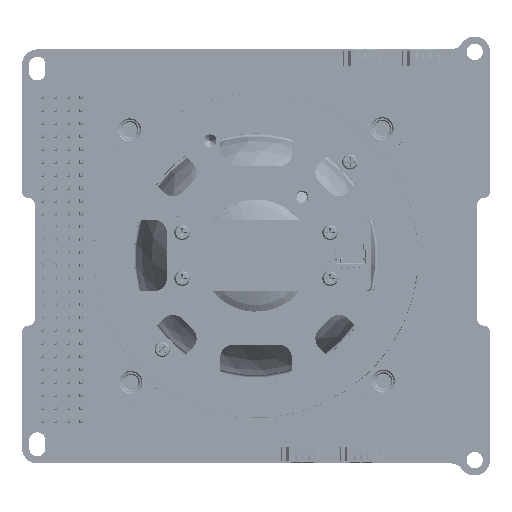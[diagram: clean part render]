
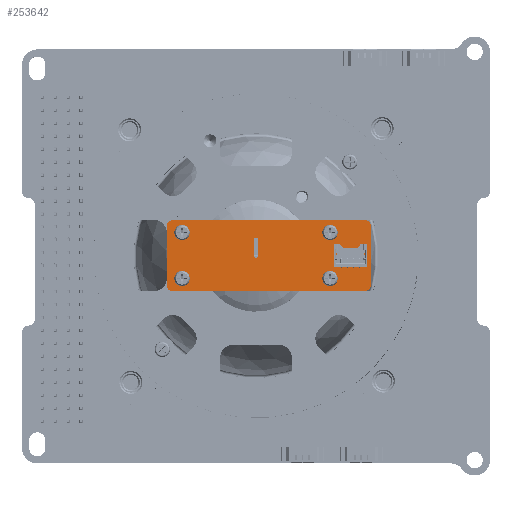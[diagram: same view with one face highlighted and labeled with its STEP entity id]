
A CAD part, top view. The second image highlights one B-rep face of the part: STEP entity #253642.
In plain terms, the highlighted planar face has unit normal (0, 0, 1).
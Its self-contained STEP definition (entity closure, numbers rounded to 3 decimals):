
#11792=FACE_BOUND('',#96534,.T.);
#11793=FACE_BOUND('',#96535,.T.);
#11794=FACE_BOUND('',#96536,.T.);
#11795=FACE_BOUND('',#96537,.T.);
#11796=FACE_BOUND('',#96538,.T.);
#23205=LINE('',#409508,#49038);
#23210=LINE('',#409522,#49043);
#23215=LINE('',#409540,#49048);
#23218=LINE('',#409546,#49051);
#23219=LINE('',#409550,#49052);
#23220=LINE('',#409554,#49053);
#49038=VECTOR('',#303647,10.);
#49043=VECTOR('',#303660,10.);
#49048=VECTOR('',#303679,10.);
#49051=VECTOR('',#303684,10.);
#49052=VECTOR('',#303687,10.);
#49053=VECTOR('',#303690,10.);
#71970=PLANE('',#270243);
#81385=FACE_OUTER_BOUND('',#96533,.T.);
#96533=EDGE_LOOP('',(#191468,#191469,#191470,#191471,#191472,#191473,#191474,
#191475));
#96534=EDGE_LOOP('',(#191476,#191477,#191478,#191479));
#96535=EDGE_LOOP('',(#191480));
#96536=EDGE_LOOP('',(#191481));
#96537=EDGE_LOOP('',(#191482));
#96538=EDGE_LOOP('',(#191483));
#112264=CIRCLE('',#270233,0.475);
#112266=CIRCLE('',#270237,0.475);
#112268=CIRCLE('',#270240,1.);
#112270=CIRCLE('',#270244,1.);
#112271=CIRCLE('',#270245,1.);
#112272=CIRCLE('',#270246,1.);
#112273=CIRCLE('',#270247,1.05);
#112274=CIRCLE('',#270248,1.05);
#112275=CIRCLE('',#270249,1.05);
#112276=CIRCLE('',#270250,1.05);
#122871=VERTEX_POINT('',#409506);
#122872=VERTEX_POINT('',#409507);
#122875=VERTEX_POINT('',#409515);
#122877=VERTEX_POINT('',#409521);
#122879=VERTEX_POINT('',#409530);
#122880=VERTEX_POINT('',#409531);
#122883=VERTEX_POINT('',#409539);
#122885=VERTEX_POINT('',#409545);
#122886=VERTEX_POINT('',#409547);
#122887=VERTEX_POINT('',#409549);
#122888=VERTEX_POINT('',#409551);
#122889=VERTEX_POINT('',#409553);
#122890=VERTEX_POINT('',#409556);
#122891=VERTEX_POINT('',#409558);
#122892=VERTEX_POINT('',#409560);
#122893=VERTEX_POINT('',#409562);
#147461=EDGE_CURVE('',#122871,#122872,#23205,.T.);
#147465=EDGE_CURVE('',#122872,#122875,#112264,.T.);
#147468=EDGE_CURVE('',#122875,#122877,#23210,.T.);
#147471=EDGE_CURVE('',#122877,#122871,#112266,.T.);
#147473=EDGE_CURVE('',#122879,#122880,#112268,.T.);
#147477=EDGE_CURVE('',#122883,#122880,#23215,.T.);
#147480=EDGE_CURVE('',#122885,#122879,#23218,.T.);
#147481=EDGE_CURVE('',#122886,#122885,#112270,.T.);
#147482=EDGE_CURVE('',#122887,#122886,#23219,.T.);
#147483=EDGE_CURVE('',#122888,#122887,#112271,.T.);
#147484=EDGE_CURVE('',#122888,#122889,#23220,.T.);
#147485=EDGE_CURVE('',#122883,#122889,#112272,.T.);
#147486=EDGE_CURVE('',#122890,#122890,#112273,.T.);
#147487=EDGE_CURVE('',#122891,#122891,#112274,.T.);
#147488=EDGE_CURVE('',#122892,#122892,#112275,.T.);
#147489=EDGE_CURVE('',#122893,#122893,#112276,.T.);
#191468=ORIENTED_EDGE('',*,*,#147473,.F.);
#191469=ORIENTED_EDGE('',*,*,#147480,.F.);
#191470=ORIENTED_EDGE('',*,*,#147481,.F.);
#191471=ORIENTED_EDGE('',*,*,#147482,.F.);
#191472=ORIENTED_EDGE('',*,*,#147483,.F.);
#191473=ORIENTED_EDGE('',*,*,#147484,.T.);
#191474=ORIENTED_EDGE('',*,*,#147485,.F.);
#191475=ORIENTED_EDGE('',*,*,#147477,.T.);
#191476=ORIENTED_EDGE('',*,*,#147468,.T.);
#191477=ORIENTED_EDGE('',*,*,#147471,.T.);
#191478=ORIENTED_EDGE('',*,*,#147461,.T.);
#191479=ORIENTED_EDGE('',*,*,#147465,.T.);
#191480=ORIENTED_EDGE('',*,*,#147486,.T.);
#191481=ORIENTED_EDGE('',*,*,#147487,.T.);
#191482=ORIENTED_EDGE('',*,*,#147488,.T.);
#191483=ORIENTED_EDGE('',*,*,#147489,.T.);
#253642=ADVANCED_FACE('',(#81385,#11792,#11793,#11794,#11795,#11796),#71970,
 .T.);
#270233=AXIS2_PLACEMENT_3D('',#409516,#303653,#303654);
#270237=AXIS2_PLACEMENT_3D('',#409527,#303665,#303666);
#270240=AXIS2_PLACEMENT_3D('',#409532,#303671,#303672);
#270243=AXIS2_PLACEMENT_3D('',#409544,#303682,#303683);
#270244=AXIS2_PLACEMENT_3D('',#409548,#303685,#303686);
#270245=AXIS2_PLACEMENT_3D('',#409552,#303688,#303689);
#270246=AXIS2_PLACEMENT_3D('',#409555,#303691,#303692);
#270247=AXIS2_PLACEMENT_3D('',#409557,#303693,#303694);
#270248=AXIS2_PLACEMENT_3D('',#409559,#303695,#303696);
#270249=AXIS2_PLACEMENT_3D('',#409561,#303697,#303698);
#270250=AXIS2_PLACEMENT_3D('',#409563,#303699,#303700);
#303647=DIRECTION('',(0.,1.,0.));
#303653=DIRECTION('center_axis',(0.,0.,
-1.));
#303654=DIRECTION('ref_axis',(-1.,0.,0.));
#303660=DIRECTION('',(0.,-1.,0.));
#303665=DIRECTION('center_axis',(0.,0.,
-1.));
#303666=DIRECTION('ref_axis',(1.,0.,0.));
#303671=DIRECTION('center_axis',(0.,0.,
-1.));
#303672=DIRECTION('ref_axis',(0.707,0.707,0.));
#303679=DIRECTION('',(0.,1.,0.));
#303682=DIRECTION('center_axis',(0.,0.,
1.));
#303683=DIRECTION('ref_axis',(-1.,0.,0.));
#303684=DIRECTION('',(1.,0.,0.));
#303685=DIRECTION('center_axis',(0.,0.,
-1.));
#303686=DIRECTION('ref_axis',(-0.707,0.707,0.));
#303687=DIRECTION('',(0.,1.,0.));
#303688=DIRECTION('center_axis',(0.,0.,
-1.));
#303689=DIRECTION('ref_axis',(-0.707,-0.707,0.));
#303690=DIRECTION('',(1.,0.,0.));
#303691=DIRECTION('center_axis',(0.,0.,
-1.));
#303692=DIRECTION('ref_axis',(0.707,-0.707,0.));
#303693=DIRECTION('center_axis',(0.,0.,
-1.));
#303694=DIRECTION('ref_axis',(0.,1.,0.));
#303695=DIRECTION('center_axis',(0.,0.,
-1.));
#303696=DIRECTION('ref_axis',(0.,1.,0.));
#303697=DIRECTION('center_axis',(0.,0.,
-1.));
#303698=DIRECTION('ref_axis',(0.,1.,0.));
#303699=DIRECTION('center_axis',(0.,0.,
-1.));
#303700=DIRECTION('ref_axis',(0.,1.,0.));
#409506=CARTESIAN_POINT('',(-0.475,0.,24.));
#409507=CARTESIAN_POINT('',(-0.475,3.,24.));
#409508=CARTESIAN_POINT('',(-0.475,1.5,24.));
#409515=CARTESIAN_POINT('',(0.475,3.,24.));
#409516=CARTESIAN_POINT('Origin',(0.,3.,
24.));
#409521=CARTESIAN_POINT('',(0.475,0.,24.));
#409522=CARTESIAN_POINT('',(0.475,0.,24.));
#409527=CARTESIAN_POINT('Origin',(0.,0.,
24.));
#409530=CARTESIAN_POINT('',(21.5,6.9,24.));
#409531=CARTESIAN_POINT('',(22.5,5.9,24.));
#409532=CARTESIAN_POINT('Origin',(21.5,5.9,24.));
#409539=CARTESIAN_POINT('',(22.5,-5.9,24.));
#409540=CARTESIAN_POINT('',(22.5,6.9,24.));
#409544=CARTESIAN_POINT('Origin',(0.,0.,
24.));
#409545=CARTESIAN_POINT('',(-16.5,6.9,24.));
#409546=CARTESIAN_POINT('',(-17.5,6.9,24.));
#409547=CARTESIAN_POINT('',(-17.5,5.9,24.));
#409548=CARTESIAN_POINT('Origin',(-16.5,5.9,24.));
#409549=CARTESIAN_POINT('',(-17.5,-5.9,24.));
#409550=CARTESIAN_POINT('',(-17.5,-6.9,24.));
#409551=CARTESIAN_POINT('',(-16.5,-6.9,24.));
#409552=CARTESIAN_POINT('Origin',(-16.5,-5.9,24.));
#409553=CARTESIAN_POINT('',(21.5,-6.9,24.));
#409554=CARTESIAN_POINT('',(22.5,-6.9,24.));
#409555=CARTESIAN_POINT('Origin',(21.5,-5.9,24.));
#409556=CARTESIAN_POINT('',(14.5,-5.55,24.));
#409557=CARTESIAN_POINT('Origin',(14.5,-4.5,24.));
#409558=CARTESIAN_POINT('',(-14.5,-5.55,24.));
#409559=CARTESIAN_POINT('Origin',(-14.5,-4.5,24.));
#409560=CARTESIAN_POINT('',(-14.5,3.45,24.));
#409561=CARTESIAN_POINT('Origin',(-14.5,4.5,24.));
#409562=CARTESIAN_POINT('',(14.5,3.45,24.));
#409563=CARTESIAN_POINT('Origin',(14.5,4.5,24.));
